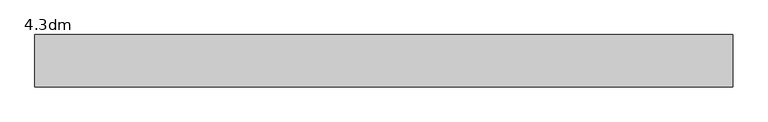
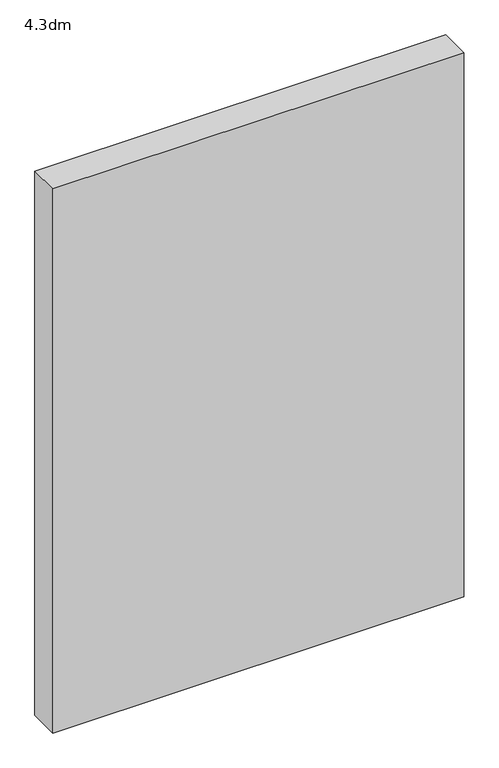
"""IFC4 building model written with IfcOpenShell, lengths in millimetres: proxy geometry, 4.3dm."""

from ifc_helpers import new_model, si_unit, origin, origin_with_axes, place, context, project, spatial, polyline, outline, extrude, source, transform, mapped, element, save


def proxy_4_3dm_49fde4f9(model_context):
    return source(origin(), model_context, "Body", "SweptSolid", [
        extrude(outline(polyline([(6762.0, 6.0), (6762.0, 156.0), (8762.0, 156.0), (8762.0, 6.0), (6762.0, 6.0)])), origin_with_axes(), (0.0, 0.0, 1.0), 2800.0),
    ])


if __name__ == "__main__":
    model = new_model("IFC4")
    model_context = context("Model", 3, world=origin())
    ifc_project = project(units=[si_unit("LENGTHUNIT", "METRE", prefix="MILLI")], contexts=[model_context])
    site = spatial("IfcSite", under=ifc_project)
    building = spatial("IfcBuilding", under=site)
    placement = place(None, origin())
    proxy_4_3dm_shape = proxy_4_3dm_49fde4f9(model_context)
    element("IfcBuildingElementProxy", 1, Name="4.3dm", ObjectType="4.3dm", at=placement, inside=building, context=model_context, shape_type="MappedRepresentation", body=[
        mapped(proxy_4_3dm_shape, transform((0.0, 0.0, 0.0), x_axis=(1.0, 0.0, 0.0), y_axis=(0.0, 1.0, 0.0), z_axis=(0.0, 0.0, 1.0))),
    ])
    save(model, "model.ifc")
